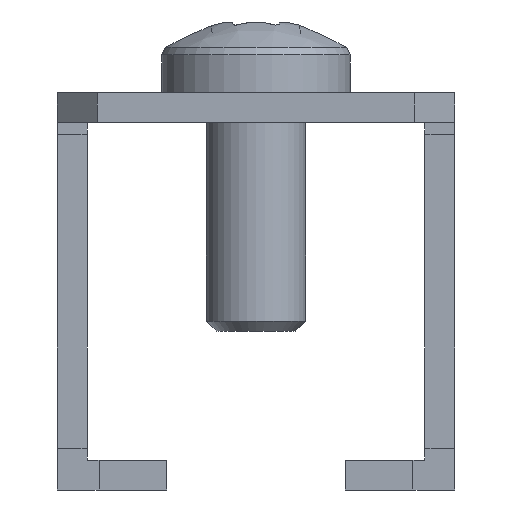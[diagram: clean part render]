
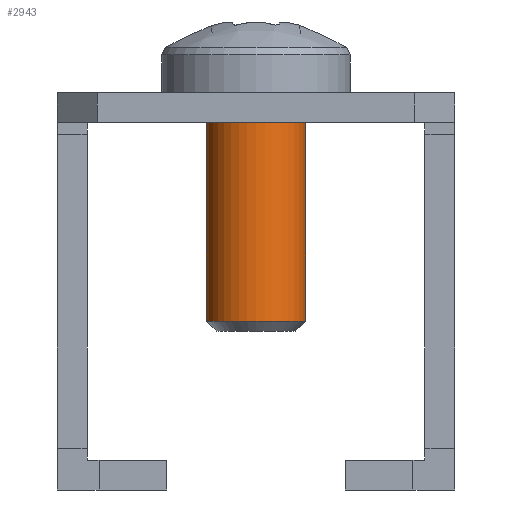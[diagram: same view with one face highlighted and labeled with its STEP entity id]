
A CAD part, left-side view. The second image highlights one B-rep face of the part: STEP entity #2943.
In plain terms, the highlighted cylindrical face has radius 2.5 mm (diameter 5 mm), a full revolution.
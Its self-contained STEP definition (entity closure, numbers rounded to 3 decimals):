
#2943 = ADVANCED_FACE('',(#2944),#2979,.T.);
#2944 = FACE_BOUND('',#2945,.T.);
#2945 = EDGE_LOOP('',(#2946,#2957,#2964,#2971,#2972));
#2946 = ORIENTED_EDGE('',*,*,#2947,.T.);
#2947 = EDGE_CURVE('',#2948,#2950,#2952,.T.);
#2948 = VERTEX_POINT('',#2949);
#2949 = CARTESIAN_POINT('',(15.2,0.,-2.5));
#2950 = VERTEX_POINT('',#2951);
#2951 = CARTESIAN_POINT('',(15.2,0.,2.5));
#2952 = CIRCLE('',#2953,2.5);
#2953 = AXIS2_PLACEMENT_3D('',#2954,#2955,#2956);
#2954 = CARTESIAN_POINT('',(15.2,0.,0.));
#2955 = DIRECTION('',(-1.,-0.,-0.));
#2956 = DIRECTION('',(0.,0.,-1.));
#2957 = ORIENTED_EDGE('',*,*,#2958,.T.);
#2958 = EDGE_CURVE('',#2950,#2959,#2961,.T.);
#2959 = VERTEX_POINT('',#2960);
#2960 = CARTESIAN_POINT('',(3.9,0.,2.5));
#2961 = B_SPLINE_CURVE_WITH_KNOTS('',1,(#2962,#2963),.UNSPECIFIED.,.F.,
  .F.,(2,2),(-40.6,-29.3),.PIECEWISE_BEZIER_KNOTS.);
#2962 = CARTESIAN_POINT('',(15.2,0.,2.5));
#2963 = CARTESIAN_POINT('',(3.9,0.,2.5));
#2964 = ORIENTED_EDGE('',*,*,#2965,.T.);
#2965 = EDGE_CURVE('',#2959,#2959,#2966,.T.);
#2966 = CIRCLE('',#2967,2.5);
#2967 = AXIS2_PLACEMENT_3D('',#2968,#2969,#2970);
#2968 = CARTESIAN_POINT('',(3.9,0.,0.));
#2969 = DIRECTION('',(1.,0.,-0.));
#2970 = DIRECTION('',(0.,0.,1.));
#2971 = ORIENTED_EDGE('',*,*,#2958,.F.);
#2972 = ORIENTED_EDGE('',*,*,#2973,.T.);
#2973 = EDGE_CURVE('',#2950,#2948,#2974,.T.);
#2974 = CIRCLE('',#2975,2.5);
#2975 = AXIS2_PLACEMENT_3D('',#2976,#2977,#2978);
#2976 = CARTESIAN_POINT('',(15.2,0.,0.));
#2977 = DIRECTION('',(-1.,-0.,-0.));
#2978 = DIRECTION('',(0.,0.,-1.));
#2979 = CYLINDRICAL_SURFACE('',#2980,2.5);
#2980 = AXIS2_PLACEMENT_3D('',#2981,#2982,#2983);
#2981 = CARTESIAN_POINT('',(-25.4,0.,0.));
#2982 = DIRECTION('',(-1.,-0.,-0.));
#2983 = DIRECTION('',(-0.,0.,1.));
